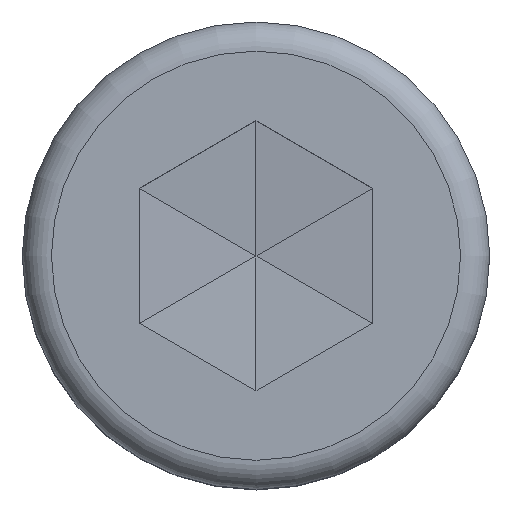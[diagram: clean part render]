
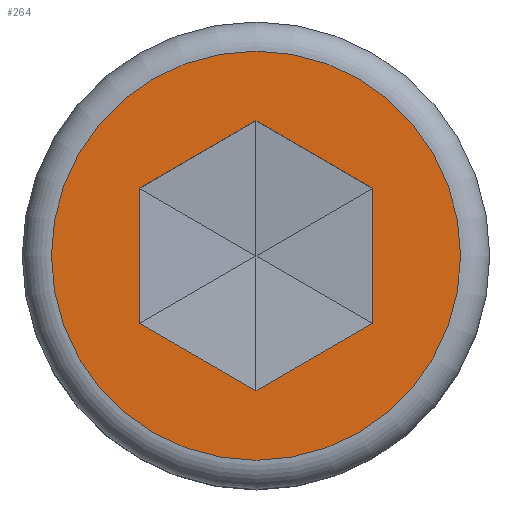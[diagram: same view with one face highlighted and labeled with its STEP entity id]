
A CAD part, top view. The second image highlights one B-rep face of the part: STEP entity #264.
In plain terms, the highlighted planar face has unit normal (0, 0, 1).
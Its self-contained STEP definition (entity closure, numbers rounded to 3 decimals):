
#21=FACE_BOUND('',#61,.T.);
#23=PLANE('',#303);
#41=FACE_OUTER_BOUND('',#60,.T.);
#60=EDGE_LOOP('',(#201));
#61=EDGE_LOOP('',(#202,#203,#204,#205,#206,#207));
#80=LINE('',#425,#107);
#81=LINE('',#427,#108);
#82=LINE('',#429,#109);
#83=LINE('',#431,#110);
#84=LINE('',#433,#111);
#85=LINE('',#434,#112);
#107=VECTOR('',#344,10.);
#108=VECTOR('',#345,10.);
#109=VECTOR('',#346,10.);
#110=VECTOR('',#347,10.);
#111=VECTOR('',#348,10.);
#112=VECTOR('',#349,10.);
#137=CIRCLE('',#302,7.);
#143=VERTEX_POINT('',#419);
#144=VERTEX_POINT('',#423);
#145=VERTEX_POINT('',#424);
#146=VERTEX_POINT('',#426);
#147=VERTEX_POINT('',#428);
#148=VERTEX_POINT('',#430);
#149=VERTEX_POINT('',#432);
#164=EDGE_CURVE('',#143,#143,#137,.T.);
#165=EDGE_CURVE('',#144,#145,#80,.T.);
#166=EDGE_CURVE('',#145,#146,#81,.T.);
#167=EDGE_CURVE('',#146,#147,#82,.T.);
#168=EDGE_CURVE('',#147,#148,#83,.T.);
#169=EDGE_CURVE('',#148,#149,#84,.T.);
#170=EDGE_CURVE('',#149,#144,#85,.T.);
#201=ORIENTED_EDGE('',*,*,#164,.F.);
#202=ORIENTED_EDGE('',*,*,#165,.T.);
#203=ORIENTED_EDGE('',*,*,#166,.T.);
#204=ORIENTED_EDGE('',*,*,#167,.T.);
#205=ORIENTED_EDGE('',*,*,#168,.T.);
#206=ORIENTED_EDGE('',*,*,#169,.T.);
#207=ORIENTED_EDGE('',*,*,#170,.T.);
#264=ADVANCED_FACE('',(#41,#21),#23,.T.);
#302=AXIS2_PLACEMENT_3D('',#421,#340,#341);
#303=AXIS2_PLACEMENT_3D('',#422,#342,#343);
#340=DIRECTION('center_axis',(0.,0.,-1.));
#341=DIRECTION('ref_axis',(1.,0.,0.));
#342=DIRECTION('center_axis',(0.,0.,1.));
#343=DIRECTION('ref_axis',(1.,0.,0.));
#344=DIRECTION('',(0.866,0.5,0.));
#345=DIRECTION('',(0.866,-0.5,0.));
#346=DIRECTION('',(0.,-1.,0.));
#347=DIRECTION('',(-0.866,-0.5,0.));
#348=DIRECTION('',(-0.866,0.5,0.));
#349=DIRECTION('',(0.,1.,0.));
#419=CARTESIAN_POINT('',(7.,0.,10.));
#421=CARTESIAN_POINT('Origin',(0.,0.,10.));
#422=CARTESIAN_POINT('Origin',(-8.,0.,10.));
#423=CARTESIAN_POINT('',(-4.,2.309,10.));
#424=CARTESIAN_POINT('',(0.,4.619,10.));
#425=CARTESIAN_POINT('',(-6.,1.155,10.));
#426=CARTESIAN_POINT('',(4.,2.309,10.));
#427=CARTESIAN_POINT('',(-2.,5.774,10.));
#428=CARTESIAN_POINT('',(4.,-2.309,10.));
#429=CARTESIAN_POINT('',(4.,1.155,10.));
#430=CARTESIAN_POINT('',(0.,-4.619,10.));
#431=CARTESIAN_POINT('',(0.,-4.619,10.));
#432=CARTESIAN_POINT('',(-4.,-2.309,10.));
#433=CARTESIAN_POINT('',(-4.,-2.309,10.));
#434=CARTESIAN_POINT('',(-4.,-1.155,10.));
